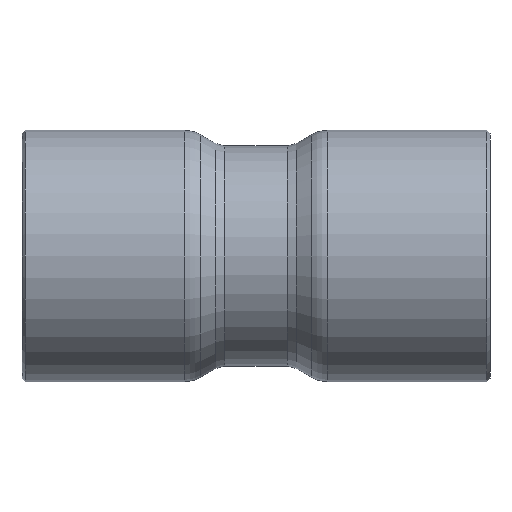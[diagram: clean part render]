
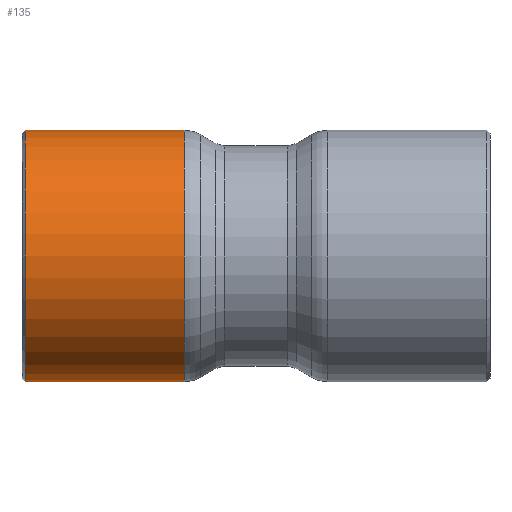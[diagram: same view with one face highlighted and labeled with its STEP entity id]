
A CAD part, front view. The second image highlights one B-rep face of the part: STEP entity #135.
In plain terms, the highlighted cylindrical face has radius 7.25 mm (diameter 14.5 mm), a full revolution.
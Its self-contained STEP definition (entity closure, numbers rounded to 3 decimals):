
#84=CARTESIAN_POINT('',(-13.3,7.25,0.));
#85=VERTEX_POINT('',#84);
#86=CARTESIAN_POINT('',(-13.3,0.0,0.0));
#87=DIRECTION('',(-1.0,0.0,0.0));
#88=DIRECTION('',(0.0,-1.0,0.0));
#89=AXIS2_PLACEMENT_3D('',#86,#87,#88);
#90=CIRCLE('',#89,7.25);
#91=EDGE_CURVE('',#85,#85,#90,.T.);
#116=CARTESIAN_POINT('',(-8.816,0.0,0.0));
#117=DIRECTION('',(1.0,0.0,0.0));
#118=DIRECTION('',(0.0,1.0,0.0));
#119=AXIS2_PLACEMENT_3D('',#116,#117,#118);
#120=CYLINDRICAL_SURFACE('',#119,7.25);
#121=CARTESIAN_POINT('',(-4.133,7.25,0.0));
#122=VERTEX_POINT('',#121);
#123=CARTESIAN_POINT('',(-4.133,0.0,0.0));
#124=DIRECTION('',(1.0,0.0,0.0));
#125=DIRECTION('',(0.0,1.0,0.0));
#126=AXIS2_PLACEMENT_3D('',#123,#124,#125);
#127=CIRCLE('',#126,7.25);
#128=EDGE_CURVE('',#122,#122,#127,.T.);
#129=ORIENTED_EDGE('',*,*,#128,.F.);
#130=EDGE_LOOP('',(#129));
#131=FACE_OUTER_BOUND('',#130,.T.);
#132=ORIENTED_EDGE('',*,*,#91,.F.);
#133=EDGE_LOOP('',(#132));
#134=FACE_BOUND('',#133,.T.);
#135=ADVANCED_FACE('',(#131,#134),#120,.T.);
